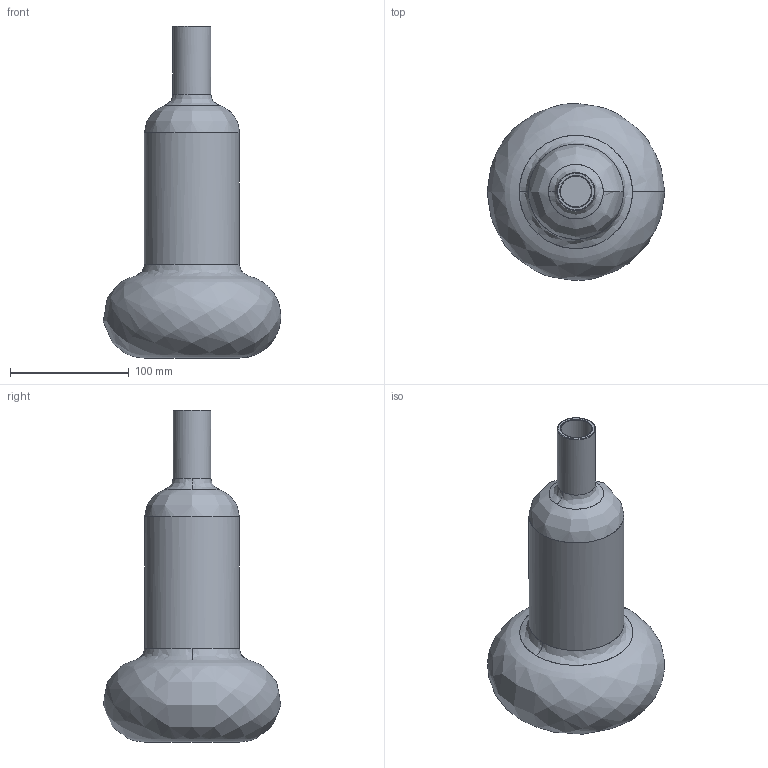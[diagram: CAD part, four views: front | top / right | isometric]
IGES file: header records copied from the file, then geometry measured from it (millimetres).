
Start section: C
Global section: file name: CARACALLA 3D.igs; native system:  By UGS Corp.; preprocessor: XPlus GENERIC/IGES 3.0; author: Author; organization: Title; date: 20201105.183437; units: millimetre
Bounding box: 149.78 x 149.56 x 280 mm (x, y, z)
Surface area: 174798.7 mm2 (no closed solid volume)
Topology: 0 solids, 0 shells, 17 faces, 92 edges, 92 vertices
Faces by surface type: bspline 17
